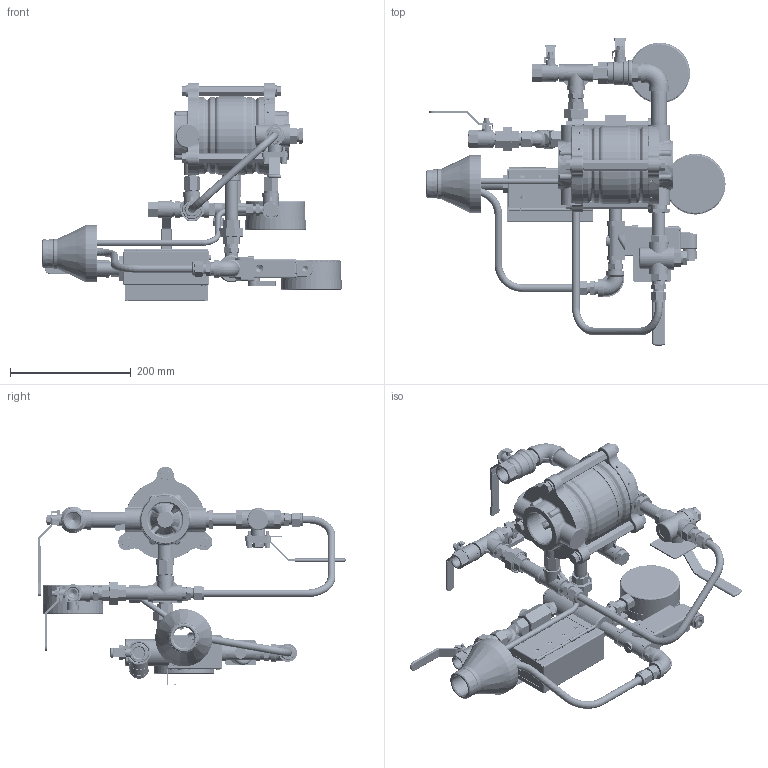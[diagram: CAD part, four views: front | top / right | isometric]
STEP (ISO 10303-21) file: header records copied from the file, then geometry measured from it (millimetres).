
FILE_DESCRIPTION(/* description */ (''),/* implementation_level */ '2;1');
FILE_NAME(/* name */ 'Z:\STANDARD SYSTEM\700DX-03C06\Step\711DX-03C06 FM UL Trim 2in.stp',/* time_stamp */ '2020-07-02T11:36:16+03:00',/* author */ ('alex'),/* organization */ (''),/* preprocessor_version */ 'ST-DEVELOPER v16.13',/* originating_system */ 'Autodesk Inventor 2018',/* authorisation */ '');
FILE_SCHEMA (('AUTOMOTIVE_DESIGN { 1 0 10303 214 3 1 1 }'));
Length unit declared in the file: inch
Products named in the file (124): 711DX-03C06 FM UL Trim 2in; 5840; 711DX-2 new; 711D-3; 4138; 5559; 4430; 3970-2 2in; 3970 2in; 4140; 5104; ASME B18.21.1 - 7/16  Regular. Carbon Steel; ANSI/ASME B18.2.1 - 7/16-14 UNC - 1.5; Solenoid-157 Assy; 157-61X; 157-61X Body; 151-7X; BODY BURKERT; BURKERT 330 COIL; BURKERT BUSH BUTTON; BURKERT CONDUIT; ISO 1207 - M 3 x 30; ISO 1207 - M 4 x 40; O'RING INCH; Q2611 - 1; Nipple 12x3,5 SS; 5375T; 31-08-01; BODY; COVER_31-08-01; 6244-1; 6245-1; 0-RING Ø12xØ3; DIN 472 - 18 x 1; BALL OD14mm; 5214_; 6246; 6318; 0-RING2112; 2072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
Assembly tree (171 placements, depth 5):
  711DX-03C06 FM UL Trim 2in
    Plug 12 SS  x3
    5840
    711DX-2 new
      711D-3
        4138
        5559
        4430
      3970-2 2in
      3970 2in
      4140  x2
      ANSI/ASME B18.2.1 - 7/16-14 UNC - 1.5  x6
      ASME B18.21.1 - 7/16  Regular. Carbon Steel  x6
      5104  x3
    Solenoid-157 Assy
      Nipple 12x2.5 SS
      157-61X
        157-61X Body
        151-7X
          BODY BURKERT
          BURKERT 330 COIL
          BURKERT BUSH BUTTON
          BURKERT CONDUIT
          ISO 1207 - M 3 x 30
          ISO 1207 - M 4 x 40  x4
    Q2611 - 1
    Nipple 12x3,5 SS
    5375T
    31-08-01
      BODY
      COVER_31-08-01
    6244-1
      6245-1
      0-RING Ø12xØ3
      DIN 472 - 18 x 1
      BALL OD14mm
      5214_
      6246
      6318
      0-RING2112
    Nipple 12 hex SS  x4
    Union 12 SS  x2
      Half Union 12M SS
      Half Union 12F SS
      Half Union F
    2072
      2073 rev01
        2073-1  rev01
        2073-2
        2073-3
        2073-4
          2073-4-1 rev01
          SP-M5-1  x4
        2073-5
        5841-2 with label
      Nipple 12x5 SS
      351-08-12
        351-08-12_BODY
        5843-12
        DIN 127 - A 8
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Bounding box: 496.15 x 510.31 x 362.82 mm (x, y, z)
Volume: 3042352.4 mm3; surface area: 1211368.3 mm2
Topology: 156 solids, 159 shells, 5113 faces, 12195 edges, 7588 vertices
Faces by surface type: plane 2452, cylinder 1036, cone 1015, bspline 399, torus 192, sphere 19
Full cylindrical faces by diameter (mm): 0.375 x1, 2 x2, 2.693 x1, 3 x6, 3.242 x14, 3.571 x4, 4 x16, 4.1 x2, 4.134 x8, 4.5 x2, 5 x17, 5.08 x2, 5.25 x2, 5.5 x5, 5.8 x4, 6 x2, 6.33 x4, 6.35 x2, 6.4 x4, 6.5 x2, 6.647 x1, 6.88 x2, 7 x9, 7.036 x3, 7.3 x1, 7.5 x2, 7.515 x4, 7.6 x2, 7.715 x4, 8 x5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
Entity records: 125712 total; most frequent: CARTESIAN_POINT 35796, ORIENTED_EDGE 17402, DIRECTION 17155, EDGE_CURVE 8683, AXIS2_PLACEMENT_3D 6364, VERTEX_POINT 5769, EDGE_LOOP 4960, LINE 4427
